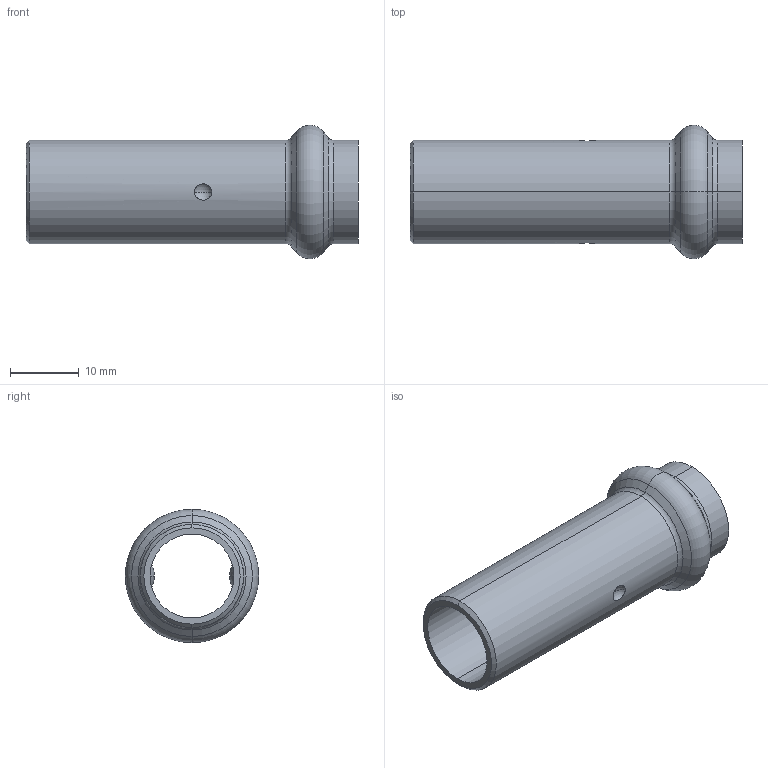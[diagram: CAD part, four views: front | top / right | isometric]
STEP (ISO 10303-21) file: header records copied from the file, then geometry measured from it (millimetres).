
FILE_DESCRIPTION (( 'STEP AP203' ), '1' );
FILE_NAME ('SP5243 15-12.STEP', '2017-04-24T09:14:47', ( '' ), ( '' ), 'SwSTEP 2.0', 'SolidWorks 2016', '' );
FILE_SCHEMA (( 'CONFIG_CONTROL_DESIGN' ));
Length unit declared in the file: millimetre
Products named in the file (1): SP5243 15-12
Bounding box: 48.25 x 19.4 x 19.4 mm (x, y, z)
Volume: 3054.1 mm3; surface area: 4490.1 mm2
Topology: 1 solids, 1 shells, 42 faces, 84 edges, 48 vertices
Faces by surface type: cone 12, torus 12, sphere 8, cylinder 8, plane 2
Entity records: 1329 total; most frequent: CARTESIAN_POINT 347, DIRECTION 218, ORIENTED_EDGE 168, AXIS2_PLACEMENT_3D 99, EDGE_CURVE 84, CIRCLE 56, VERTEX_POINT 48, EDGE_LOOP 48
